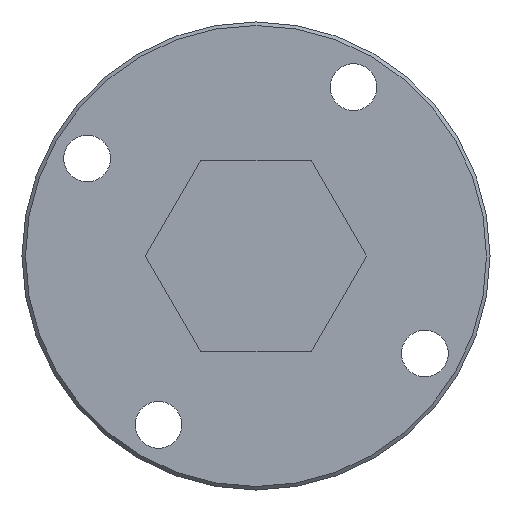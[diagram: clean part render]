
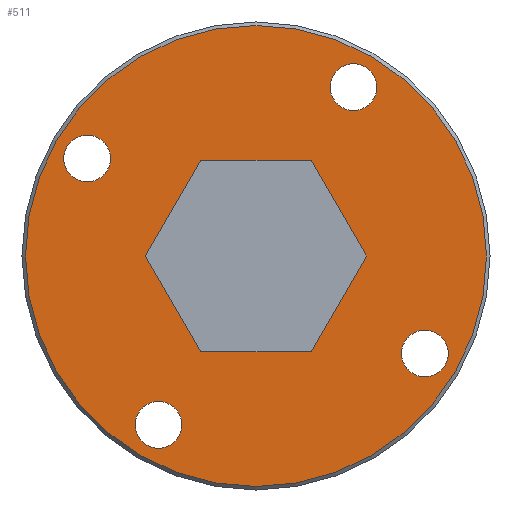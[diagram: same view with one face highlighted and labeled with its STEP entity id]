
A CAD part, left-side view. The second image highlights one B-rep face of the part: STEP entity #511.
In plain terms, the highlighted planar face has unit normal (-1, 0, 0).
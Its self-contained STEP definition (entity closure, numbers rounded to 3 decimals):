
#377=CARTESIAN_POINT('',(120.0,32.5,0.));
#378=VERTEX_POINT('',#377);
#379=CARTESIAN_POINT('',(120.0,0.0,0.0));
#380=DIRECTION('',(1.0,0.0,0.0));
#381=DIRECTION('',(0.0,-1.0,0.0));
#382=AXIS2_PLACEMENT_3D('',#379,#380,#381);
#383=CIRCLE('',#382,32.5);
#384=EDGE_CURVE('',#378,#378,#383,.T.);
#409=CARTESIAN_POINT('',(120.0,0.0,11.));
#410=DIRECTION('',(-1.0,0.0,0.0));
#411=DIRECTION('',(0.0,0.0,1.0));
#412=AXIS2_PLACEMENT_3D('',#409,#410,#411);
#413=PLANE('',#412);
#414=ORIENTED_EDGE('',*,*,#384,.F.);
#415=EDGE_LOOP('',(#414));
#416=FACE_OUTER_BOUND('',#415,.T.);
#417=CARTESIAN_POINT('',(120.0,-7.794,-13.5));
#418=VERTEX_POINT('',#417);
#419=CARTESIAN_POINT('',(120.0,7.794,-13.5));
#420=VERTEX_POINT('',#419);
#421=CARTESIAN_POINT('',(120.0,-7.794,-13.5));
#422=DIRECTION('',(0.0,1.0,0.0));
#423=VECTOR('',#422,15.588);
#424=LINE('',#421,#423);
#425=EDGE_CURVE('',#418,#420,#424,.T.);
#426=ORIENTED_EDGE('',*,*,#425,.T.);
#427=CARTESIAN_POINT('',(120.0,15.588,0.));
#428=VERTEX_POINT('',#427);
#429=CARTESIAN_POINT('',(120.0,7.794,-13.5));
#430=DIRECTION('',(0.0,0.5,0.866));
#431=VECTOR('',#430,15.588);
#432=LINE('',#429,#431);
#433=EDGE_CURVE('',#420,#428,#432,.T.);
#434=ORIENTED_EDGE('',*,*,#433,.T.);
#435=CARTESIAN_POINT('',(120.0,7.794,13.5));
#436=VERTEX_POINT('',#435);
#437=CARTESIAN_POINT('',(120.0,15.588,0.));
#438=DIRECTION('',(0.0,-0.5,0.866));
#439=VECTOR('',#438,15.588);
#440=LINE('',#437,#439);
#441=EDGE_CURVE('',#428,#436,#440,.T.);
#442=ORIENTED_EDGE('',*,*,#441,.T.);
#443=CARTESIAN_POINT('',(120.0,-7.794,13.5));
#444=VERTEX_POINT('',#443);
#445=CARTESIAN_POINT('',(120.0,7.794,13.5));
#446=DIRECTION('',(0.0,-1.0,0.0));
#447=VECTOR('',#446,15.588);
#448=LINE('',#445,#447);
#449=EDGE_CURVE('',#436,#444,#448,.T.);
#450=ORIENTED_EDGE('',*,*,#449,.T.);
#451=CARTESIAN_POINT('',(120.0,-15.588,0.));
#452=VERTEX_POINT('',#451);
#453=CARTESIAN_POINT('',(120.0,-7.794,13.5));
#454=DIRECTION('',(0.0,-0.5,-0.866));
#455=VECTOR('',#454,15.588);
#456=LINE('',#453,#455);
#457=EDGE_CURVE('',#444,#452,#456,.T.);
#458=ORIENTED_EDGE('',*,*,#457,.T.);
#459=CARTESIAN_POINT('',(120.0,-15.588,0.));
#460=DIRECTION('',(0.0,0.5,-0.866));
#461=VECTOR('',#460,15.588);
#462=LINE('',#459,#461);
#463=EDGE_CURVE('',#452,#418,#462,.T.);
#464=ORIENTED_EDGE('',*,*,#463,.T.);
#465=EDGE_LOOP('',(#426,#434,#442,#450,#458,#464));
#466=FACE_BOUND('',#465,.T.);
#467=CARTESIAN_POINT('',(120.0,-10.45,23.816));
#468=VERTEX_POINT('',#467);
#469=CARTESIAN_POINT('',(120.0,-13.75,23.816));
#470=DIRECTION('',(1.0,0.0,0.0));
#471=DIRECTION('',(0.0,1.0,0.0));
#472=AXIS2_PLACEMENT_3D('',#469,#470,#471);
#473=CIRCLE('',#472,3.3);
#474=EDGE_CURVE('',#468,#468,#473,.T.);
#475=ORIENTED_EDGE('',*,*,#474,.T.);
#476=EDGE_LOOP('',(#475));
#477=FACE_BOUND('',#476,.T.);
#478=CARTESIAN_POINT('',(120.0,-23.816,-10.45));
#479=VERTEX_POINT('',#478);
#480=CARTESIAN_POINT('',(120.0,-23.816,-13.75));
#481=DIRECTION('',(1.0,0.0,0.0));
#482=DIRECTION('',(0.0,0.0,1.0));
#483=AXIS2_PLACEMENT_3D('',#480,#481,#482);
#484=CIRCLE('',#483,3.3);
#485=EDGE_CURVE('',#479,#479,#484,.T.);
#486=ORIENTED_EDGE('',*,*,#485,.T.);
#487=EDGE_LOOP('',(#486));
#488=FACE_BOUND('',#487,.T.);
#489=CARTESIAN_POINT('',(120.0,10.45,-23.816));
#490=VERTEX_POINT('',#489);
#491=CARTESIAN_POINT('',(120.0,13.75,-23.816));
#492=DIRECTION('',(1.0,0.0,0.0));
#493=DIRECTION('',(0.0,-1.0,0.0));
#494=AXIS2_PLACEMENT_3D('',#491,#492,#493);
#495=CIRCLE('',#494,3.3);
#496=EDGE_CURVE('',#490,#490,#495,.T.);
#497=ORIENTED_EDGE('',*,*,#496,.T.);
#498=EDGE_LOOP('',(#497));
#499=FACE_BOUND('',#498,.T.);
#500=CARTESIAN_POINT('',(120.0,23.816,10.45));
#501=VERTEX_POINT('',#500);
#502=CARTESIAN_POINT('',(120.0,23.816,13.75));
#503=DIRECTION('',(1.0,0.0,0.0));
#504=DIRECTION('',(0.0,0.0,-1.0));
#505=AXIS2_PLACEMENT_3D('',#502,#503,#504);
#506=CIRCLE('',#505,3.3);
#507=EDGE_CURVE('',#501,#501,#506,.T.);
#508=ORIENTED_EDGE('',*,*,#507,.T.);
#509=EDGE_LOOP('',(#508));
#510=FACE_BOUND('',#509,.T.);
#511=ADVANCED_FACE('',(#416,#466,#477,#488,#499,#510),#413,.T.);
